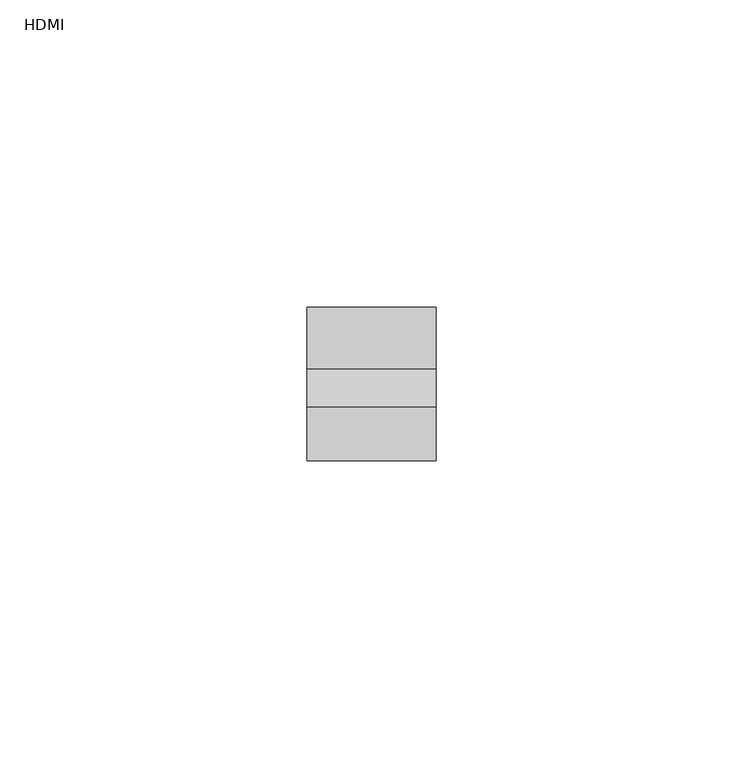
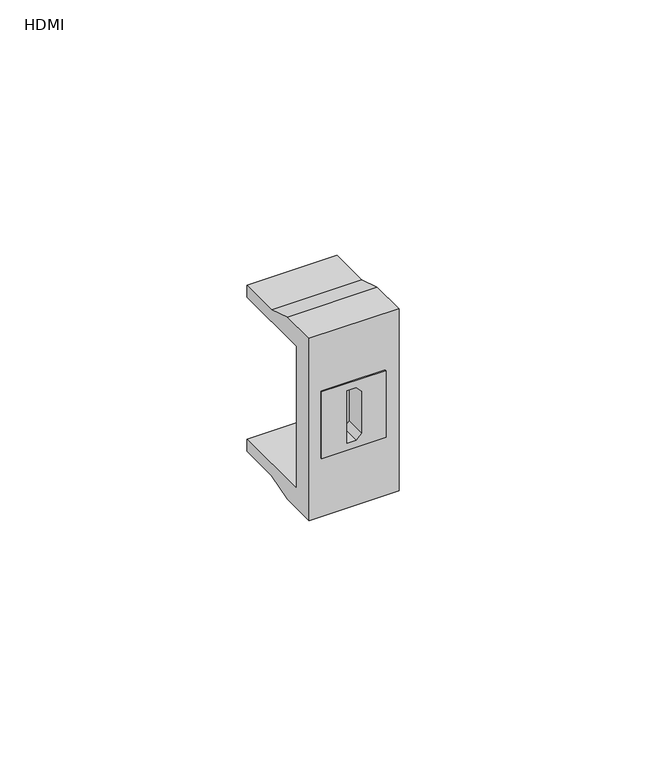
"""IFC4 building model written with IfcOpenShell, lengths in millimetres: proxy geometry, КНС_МультимедийныеРозеткиHDMIиUSB_DKC : HDMI."""

from ifc_helpers import new_model, si_unit, origin, place, context, project, spatial, faceted_brep, source, transform, mapped, element, save


def hdmi_7d67e353(model_context):
    return source(origin(), model_context, "Body", "Brep", [
        faceted_brep([(7.5, -25.0, 8.25), (-7.5, -25.0, 8.25), (-7.5, -25.0, -8.25), (7.5, -25.0, -8.25), (-1.5914527, -25.0, 6.436967), (0.5241099, -25.0, 6.436967), (1.7681536, -25.0, 5.1929232), (1.7681536, -25.0, -5.1929232), (0.5241099, -25.0, -6.436967), (-1.5914527, -25.0, -6.436967), (7.5, -16.2913439, 8.25), (7.5, -16.2913439, -8.25), (-7.5, -16.2913439, -8.25), (-7.5, -16.2913439, 8.25), (0.5241099, -20.0, 6.436967), (-1.5914527, -20.0, 6.436967), (-1.5914527, -20.0, -6.436967), (0.5241099, -20.0, -6.436967), (1.7681536, -20.0, -5.1929232), (1.7681536, -20.0, 5.1929232)], [[[0, 1, 2, 3], [4, 5, 6, 7, 8, 9]], [[10, 11, 12, 13]], [[1, 0, 10, 13]], [[2, 1, 13, 12]], [[3, 2, 12, 11]], [[0, 3, 11, 10]], [[14, 15, 16, 17, 18, 19]], [[15, 14, 5, 4]], [[16, 15, 4, 9]], [[17, 16, 9, 8]], [[18, 17, 8, 7]], [[19, 18, 7, 6]], [[14, 19, 6, 5]]]),
        faceted_brep([(10.5, -25.0, 22.5), (-10.5, -25.0, 22.5), (-10.5, -25.0, -22.5), (10.5, -25.0, -22.5), (7.5, -25.0, 8.25), (7.5, -25.0, -8.25), (-7.5, -25.0, -8.25), (-7.5, -25.0, 8.25), (10.5, 0.0, 20.5), (10.5, 0.0, 17.5), (-10.5, 0.0, 17.5), (-10.5, 0.0, 20.5), (10.5, 0.0, -17.5), (10.5, 0.0, -20.5), (-10.5, 0.0, -20.5), (-10.5, 0.0, -17.5), (10.5, -16.2913439, 22.5), (-10.5, -16.2913439, 22.5), (-10.5, -10.0, 20.5), (-10.5, -20.0, 17.5), (-10.5, -20.0, -17.5), (-10.5, -10.0, -20.5), (-10.5, -16.2913439, -22.5), (10.5, -16.2913439, -22.5), (10.5, -10.0, -20.5), (10.5, -20.0, -17.5), (10.5, -20.0, 17.5), (10.5, -10.0, 20.5), (7.5, -20.0, 8.25), (7.5, -20.0, -8.25), (-7.5, -20.0, -8.25), (-7.5, -20.0, 8.25)], [[[0, 1, 2, 3], [4, 5, 6, 7]], [[8, 9, 10, 11]], [[12, 13, 14, 15]], [[1, 0, 16, 17]], [[2, 1, 17, 18, 11, 10, 19, 20, 15, 14, 21, 22]], [[3, 2, 22, 23]], [[0, 3, 23, 24, 13, 12, 25, 26, 9, 8, 27, 16]], [[5, 4, 28, 29]], [[6, 5, 29, 30]], [[7, 6, 30, 31]], [[4, 7, 31, 28]], [[20, 25, 12, 15]], [[26, 19, 10, 9]], [[25, 20, 19, 26], [29, 28, 31, 30]], [[18, 27, 8, 11]], [[27, 18, 17, 16]], [[24, 21, 14, 13]], [[21, 24, 23, 22]]]),
    ])


if __name__ == "__main__":
    model = new_model("IFC4")
    model_context = context("Model", 3, world=origin())
    ifc_project = project(units=[si_unit("LENGTHUNIT", "METRE", prefix="MILLI")], contexts=[model_context])
    site = spatial("IfcSite", under=ifc_project)
    building = spatial("IfcBuilding", under=site)
    placement = place(None, origin())
    hdmi_shape = hdmi_7d67e353(model_context)
    element("IfcBuildingElementProxy", 1, Name="КНС_МультимедийныеРозеткиHDMIиUSB_DKC : HDMI", ObjectType="КНС_МультимедийныеРозеткиHDMIиUSB_DKC : HDMI", at=placement, inside=building, context=model_context, shape_type="MappedRepresentation", body=[
        mapped(hdmi_shape, transform((0.0, 0.0, 0.0), x_axis=(1.0, 0.0, 0.0), y_axis=(0.0, 1.0, 0.0), z_axis=(0.0, 0.0, 1.0))),
    ])
    save(model, "model.ifc")
